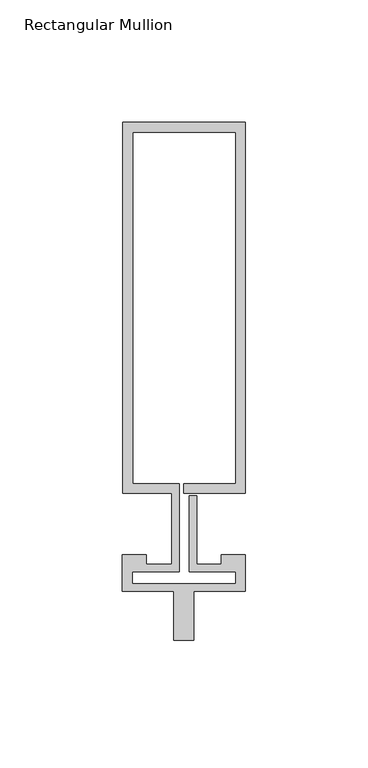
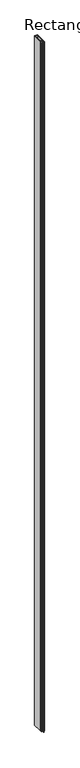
"""IFC4 building model written with IfcOpenShell, lengths in millimetres: member geometry, Rectangular Mullion : Reynaers_CW-50_Mullion-Transom_Horizontal_151.4mm_Facecap-06A."""

from ifc_helpers import new_model, si_unit, frame, origin, place, context, project, spatial, polyline, outline, extrude, source, transform, mapped, element, save


def rectangular_mullion_4e9b35a7(model_context):
    return source(origin(), model_context, "Body", "SweptSolid", [
        extrude(outline(polyline([(-24.8004059, 163.9), (25.1995941, 163.9), (25.1995941, 12.5), (0.0, 12.5), (0.0, 16.5), (21.1995941, 16.5), (21.1995941, 159.9), (-20.8004059, 159.9), (-20.8004059, 16.5), (-1.9004059, 16.5), (-1.9004059, -19.5), (-20.994845, -19.5), (-20.994845, -24.4191338), (21.1995941, -24.4191338), (21.1995941, -19.5), (2.2995941, -19.5), (2.2995941, 11.5), (5.2995941, 11.5), (5.2995941, -16.5), (15.2996495, -16.5), (15.2996495, -12.5), (25.1995941, -12.5), (25.1995941, -27.5), (4.004855, -27.5), (4.004855, -47.5), (-3.995145, -47.5), (-3.995145, -27.5), (-24.994845, -27.5), (-24.994845, -12.5), (-15.2996495, -12.5), (-15.2996495, -16.5), (-4.9004059, -16.5), (-4.9004059, 12.5), (-24.8004059, 12.5), (-24.8004059, 163.9)])), frame((0.0, 0.0, -12000.0), z_axis=(0.0, 0.0, 1.0), x_axis=(1.0, 0.0, 0.0)), (0.0, 0.0, 1.0), 12000.0),
    ])


if __name__ == "__main__":
    model = new_model("IFC4")
    model_context = context("Model", 3, world=origin())
    ifc_project = project(units=[si_unit("LENGTHUNIT", "METRE", prefix="MILLI")], contexts=[model_context])
    site = spatial("IfcSite", under=ifc_project)
    building = spatial("IfcBuilding", under=site)
    placement = place(None, origin())
    rectangular_mullion_shape = rectangular_mullion_4e9b35a7(model_context)
    element("IfcMember", 1, ObjectType="Rectangular Mullion : Reynaers_CW-50_Mullion-Transom_Horizontal_151.4mm_Facecap-06A", at=placement, inside=building, context=model_context, shape_type="MappedRepresentation", body=[
        mapped(rectangular_mullion_shape, transform((0.0, 0.0, 0.0), x_axis=(1.0, 0.0, 0.0), y_axis=(0.0, 1.0, 0.0), z_axis=(0.0, 0.0, 1.0))),
    ])
    save(model, "model.ifc")
